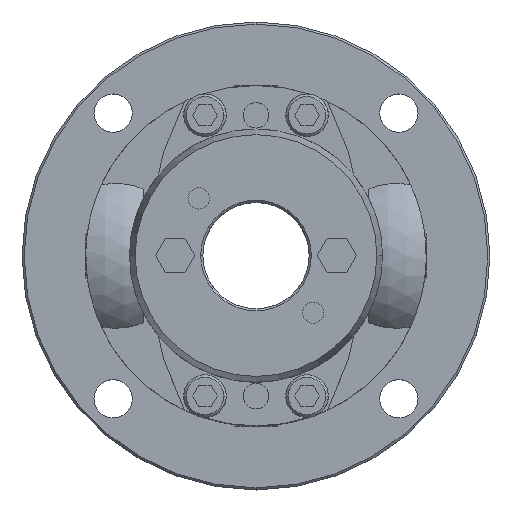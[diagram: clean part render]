
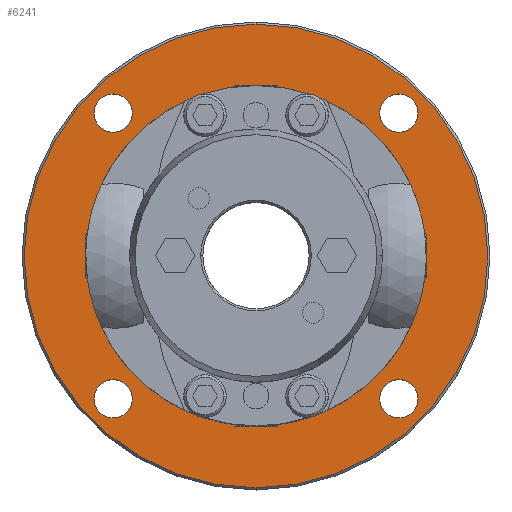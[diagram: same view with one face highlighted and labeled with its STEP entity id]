
A CAD part, top view. The second image highlights one B-rep face of the part: STEP entity #6241.
In plain terms, the highlighted planar face has unit normal (0, 0, 1).
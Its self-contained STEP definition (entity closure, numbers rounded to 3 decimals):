
#730=CARTESIAN_POINT('',(0.,-40.0,-16.0));
#731=VERTEX_POINT('',#730);
#847=CARTESIAN_POINT('',(0.,40.0,-16.0));
#848=VERTEX_POINT('',#847);
#855=CARTESIAN_POINT('',(0.0,0.0,-16.0));
#856=DIRECTION('',(0.0,0.0,-1.0));
#857=DIRECTION('',(0.0,1.0,0.0));
#858=AXIS2_PLACEMENT_3D('',#855,#856,#857);
#859=CIRCLE('',#858,40.0);
#860=EDGE_CURVE('',#731,#848,#859,.T.);
#1357=CARTESIAN_POINT('',(-33.588,38.088,-16.0));
#1358=VERTEX_POINT('',#1357);
#1367=CARTESIAN_POINT('',(-33.588,29.088,-16.0));
#1368=VERTEX_POINT('',#1367);
#1369=CARTESIAN_POINT('',(-33.588,33.588,-16.0));
#1370=DIRECTION('',(0.0,0.0,-1.0));
#1371=DIRECTION('',(0.0,1.0,0.0));
#1372=AXIS2_PLACEMENT_3D('',#1369,#1370,#1371);
#1373=CIRCLE('',#1372,4.5);
#1374=EDGE_CURVE('',#1368,#1358,#1373,.T.);
#1399=CARTESIAN_POINT('',(33.588,38.088,-16.0));
#1400=VERTEX_POINT('',#1399);
#1409=CARTESIAN_POINT('',(33.588,29.088,-16.0));
#1410=VERTEX_POINT('',#1409);
#1411=CARTESIAN_POINT('',(33.588,33.588,-16.0));
#1412=DIRECTION('',(0.0,0.0,-1.0));
#1413=DIRECTION('',(0.0,1.0,0.0));
#1414=AXIS2_PLACEMENT_3D('',#1411,#1412,#1413);
#1415=CIRCLE('',#1414,4.5);
#1416=EDGE_CURVE('',#1410,#1400,#1415,.T.);
#1441=CARTESIAN_POINT('',(33.588,-29.088,-16.0));
#1442=VERTEX_POINT('',#1441);
#1451=CARTESIAN_POINT('',(33.588,-38.088,-16.0));
#1452=VERTEX_POINT('',#1451);
#1453=CARTESIAN_POINT('',(33.588,-33.588,-16.0));
#1454=DIRECTION('',(0.0,0.0,-1.0));
#1455=DIRECTION('',(0.0,1.0,0.0));
#1456=AXIS2_PLACEMENT_3D('',#1453,#1454,#1455);
#1457=CIRCLE('',#1456,4.5);
#1458=EDGE_CURVE('',#1452,#1442,#1457,.T.);
#1483=CARTESIAN_POINT('',(-33.588,-29.088,-16.0));
#1484=VERTEX_POINT('',#1483);
#1493=CARTESIAN_POINT('',(-33.588,-38.088,-16.0));
#1494=VERTEX_POINT('',#1493);
#1495=CARTESIAN_POINT('',(-33.588,-33.588,-16.0));
#1496=DIRECTION('',(0.0,0.0,-1.0));
#1497=DIRECTION('',(0.0,1.0,0.0));
#1498=AXIS2_PLACEMENT_3D('',#1495,#1496,#1497);
#1499=CIRCLE('',#1498,4.5);
#1500=EDGE_CURVE('',#1494,#1484,#1499,.T.);
#2031=CARTESIAN_POINT('',(0.,-54.5,-16.0));
#2032=VERTEX_POINT('',#2031);
#2041=CARTESIAN_POINT('',(0.,54.5,-16.0));
#2042=VERTEX_POINT('',#2041);
#2043=CARTESIAN_POINT('',(0.0,0.0,-16.0));
#2044=DIRECTION('',(0.0,0.0,-1.0));
#2045=DIRECTION('',(0.0,-1.0,0.0));
#2046=AXIS2_PLACEMENT_3D('',#2043,#2044,#2045);
#2047=CIRCLE('',#2046,54.5);
#2048=EDGE_CURVE('',#2032,#2042,#2047,.T.);
#6172=CARTESIAN_POINT('',(0.0,0.0,-16.0));
#6173=DIRECTION('',(0.0,0.0,-1.0));
#6174=DIRECTION('',(0.0,-1.0,0.0));
#6175=AXIS2_PLACEMENT_3D('',#6172,#6173,#6174);
#6176=CIRCLE('',#6175,54.5);
#6177=EDGE_CURVE('',#2042,#2032,#6176,.T.);
#6182=CARTESIAN_POINT('',(0.,5.,-16.0));
#6183=DIRECTION('',(0.0,0.0,1.0));
#6184=DIRECTION('',(0.0,1.0,0.0));
#6185=AXIS2_PLACEMENT_3D('',#6182,#6183,#6184);
#6186=PLANE('',#6185);
#6187=ORIENTED_EDGE('',*,*,#6177,.F.);
#6188=ORIENTED_EDGE('',*,*,#2048,.F.);
#6189=EDGE_LOOP('',(#6187,#6188));
#6190=FACE_OUTER_BOUND('',#6189,.T.);
#6191=ORIENTED_EDGE('',*,*,#860,.T.);
#6192=CARTESIAN_POINT('',(0.0,0.0,-16.0));
#6193=DIRECTION('',(0.0,0.0,-1.0));
#6194=DIRECTION('',(0.0,1.0,0.0));
#6195=AXIS2_PLACEMENT_3D('',#6192,#6193,#6194);
#6196=CIRCLE('',#6195,40.0);
#6197=EDGE_CURVE('',#848,#731,#6196,.T.);
#6198=ORIENTED_EDGE('',*,*,#6197,.T.);
#6199=EDGE_LOOP('',(#6191,#6198));
#6200=FACE_BOUND('',#6199,.T.);
#6201=ORIENTED_EDGE('',*,*,#1374,.T.);
#6202=CARTESIAN_POINT('',(-33.588,33.588,-16.0));
#6203=DIRECTION('',(0.0,0.0,-1.0));
#6204=DIRECTION('',(0.0,1.0,0.0));
#6205=AXIS2_PLACEMENT_3D('',#6202,#6203,#6204);
#6206=CIRCLE('',#6205,4.5);
#6207=EDGE_CURVE('',#1358,#1368,#6206,.T.);
#6208=ORIENTED_EDGE('',*,*,#6207,.T.);
#6209=EDGE_LOOP('',(#6201,#6208));
#6210=FACE_BOUND('',#6209,.T.);
#6211=ORIENTED_EDGE('',*,*,#1416,.T.);
#6212=CARTESIAN_POINT('',(33.588,33.588,-16.0));
#6213=DIRECTION('',(0.0,0.0,-1.0));
#6214=DIRECTION('',(0.0,1.0,0.0));
#6215=AXIS2_PLACEMENT_3D('',#6212,#6213,#6214);
#6216=CIRCLE('',#6215,4.5);
#6217=EDGE_CURVE('',#1400,#1410,#6216,.T.);
#6218=ORIENTED_EDGE('',*,*,#6217,.T.);
#6219=EDGE_LOOP('',(#6211,#6218));
#6220=FACE_BOUND('',#6219,.T.);
#6221=ORIENTED_EDGE('',*,*,#1458,.T.);
#6222=CARTESIAN_POINT('',(33.588,-33.588,-16.0));
#6223=DIRECTION('',(0.0,0.0,-1.0));
#6224=DIRECTION('',(0.0,1.0,0.0));
#6225=AXIS2_PLACEMENT_3D('',#6222,#6223,#6224);
#6226=CIRCLE('',#6225,4.5);
#6227=EDGE_CURVE('',#1442,#1452,#6226,.T.);
#6228=ORIENTED_EDGE('',*,*,#6227,.T.);
#6229=EDGE_LOOP('',(#6221,#6228));
#6230=FACE_BOUND('',#6229,.T.);
#6231=ORIENTED_EDGE('',*,*,#1500,.T.);
#6232=CARTESIAN_POINT('',(-33.588,-33.588,-16.0));
#6233=DIRECTION('',(0.0,0.0,-1.0));
#6234=DIRECTION('',(0.0,1.0,0.0));
#6235=AXIS2_PLACEMENT_3D('',#6232,#6233,#6234);
#6236=CIRCLE('',#6235,4.5);
#6237=EDGE_CURVE('',#1484,#1494,#6236,.T.);
#6238=ORIENTED_EDGE('',*,*,#6237,.T.);
#6239=EDGE_LOOP('',(#6231,#6238));
#6240=FACE_BOUND('',#6239,.T.);
#6241=ADVANCED_FACE('',(#6190,#6200,#6210,#6220,#6230,#6240),#6186,.T.);
